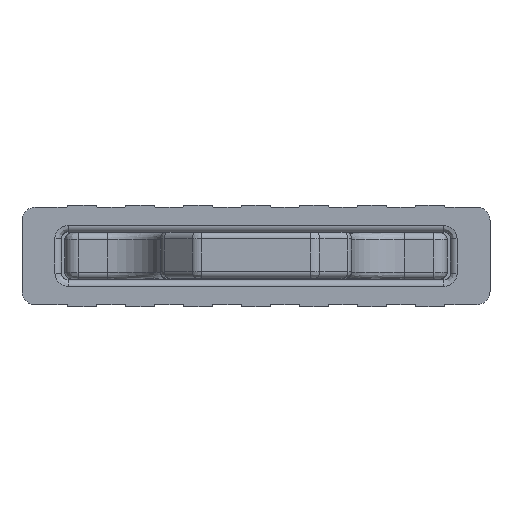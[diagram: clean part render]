
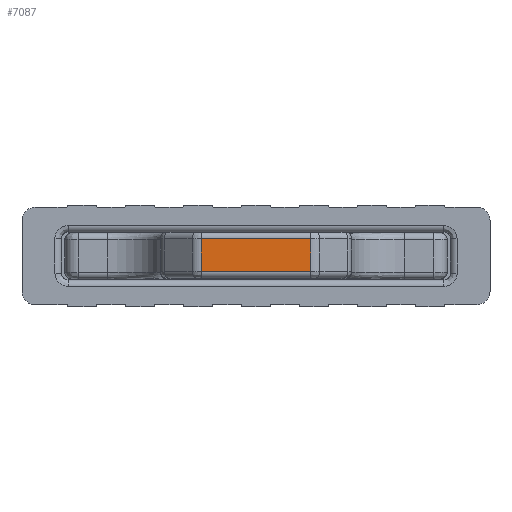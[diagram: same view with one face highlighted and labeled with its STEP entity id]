
A CAD part, top view. The second image highlights one B-rep face of the part: STEP entity #7087.
In plain terms, the highlighted planar face has unit normal (0, 0, 1).
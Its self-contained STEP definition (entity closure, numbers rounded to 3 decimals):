
#50 = ORIENTED_EDGE ( 'NONE', *, *, #3429, .F. ) ;
#878 = FACE_OUTER_BOUND ( 'NONE', #7707, .T. ) ;
#1395 = AXIS2_PLACEMENT_3D ( 'NONE', #4866, #3535, #12771 ) ;
#3429 = EDGE_CURVE ( 'NONE', #14252, #15296, #10686, .T. ) ;
#3535 = DIRECTION ( 'NONE',  ( 0., 0., -1. ) ) ;
#3881 = ORIENTED_EDGE ( 'NONE', *, *, #11005, .F. ) ;
#4004 = VECTOR ( 'NONE', #8289, 1000. ) ;
#4866 = CARTESIAN_POINT ( 'NONE',  ( -7.25, 1.75, 0. ) ) ;
#5096 = CARTESIAN_POINT ( 'NONE',  ( 4.136, -1.25, 0. ) ) ;
#5136 = DIRECTION ( 'NONE',  ( 0., -1., 0. ) ) ;
#5209 = DIRECTION ( 'NONE',  ( -1., 0., 0. ) ) ;
#5259 = CARTESIAN_POINT ( 'NONE',  ( -7.25, -1.25, 0. ) ) ;
#5472 = EDGE_CURVE ( 'NONE', #15296, #5890, #7919, .T. ) ;
#5501 = CARTESIAN_POINT ( 'NONE',  ( -7.25, 1.25, 0. ) ) ;
#5765 = VERTEX_POINT ( 'NONE', #6850 ) ;
#5890 = VERTEX_POINT ( 'NONE', #11050 ) ;
#6601 = VECTOR ( 'NONE', #14760, 1000. ) ;
#6850 = CARTESIAN_POINT ( 'NONE',  ( 4.136, 1.25, 0. ) ) ;
#7008 = LINE ( 'NONE', #5501, #6601 ) ;
#7087 = ADVANCED_FACE ( 'NONE', ( #878 ), #7156, .F. ) ;
#7156 = PLANE ( 'NONE',  #1395 ) ;
#7467 = LINE ( 'NONE', #10754, #10983 ) ;
#7707 = EDGE_LOOP ( 'NONE', ( #12971, #9327, #50, #3881 ) ) ;
#7919 = LINE ( 'NONE', #14867, #4004 ) ;
#8289 = DIRECTION ( 'NONE',  ( 0., 1., 0. ) ) ;
#9327 = ORIENTED_EDGE ( 'NONE', *, *, #5472, .F. ) ;
#10240 = VECTOR ( 'NONE', #5209, 1000. ) ;
#10686 = LINE ( 'NONE', #5259, #10240 ) ;
#10754 = CARTESIAN_POINT ( 'NONE',  ( 4.136, 1.75, 0. ) ) ;
#10782 = CARTESIAN_POINT ( 'NONE',  ( -4.136, -1.25, 0. ) ) ;
#10983 = VECTOR ( 'NONE', #5136, 1000. ) ;
#11005 = EDGE_CURVE ( 'NONE', #5765, #14252, #7467, .T. ) ;
#11050 = CARTESIAN_POINT ( 'NONE',  ( -4.136, 1.25, 0. ) ) ;
#12771 = DIRECTION ( 'NONE',  ( -1., 0., 0. ) ) ;
#12971 = ORIENTED_EDGE ( 'NONE', *, *, #13423, .F. ) ;
#13423 = EDGE_CURVE ( 'NONE', #5890, #5765, #7008, .T. ) ;
#14252 = VERTEX_POINT ( 'NONE', #5096 ) ;
#14760 = DIRECTION ( 'NONE',  ( 1., 0., 0. ) ) ;
#14867 = CARTESIAN_POINT ( 'NONE',  ( -4.136, 1.75, 0. ) ) ;
#15296 = VERTEX_POINT ( 'NONE', #10782 ) ;
